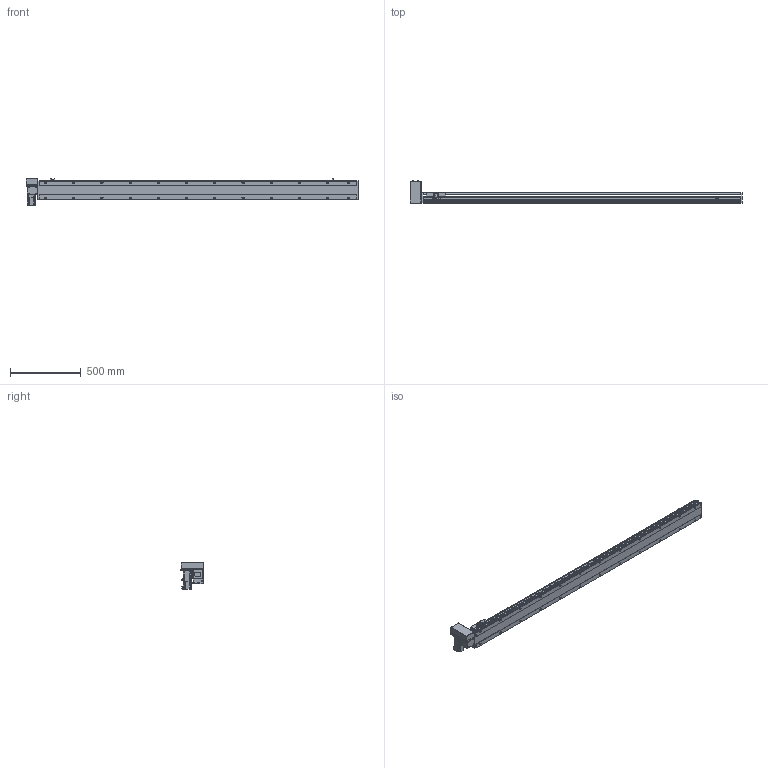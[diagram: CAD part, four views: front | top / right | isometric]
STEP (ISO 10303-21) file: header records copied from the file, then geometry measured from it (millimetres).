
FILE_DESCRIPTION( ( 'STEP AP214' ), '1' );
FILE_NAME( 'x:/temp/worker_3/temp/exporttempdir_5796_25_tZlxv/format_0/PBS140-P40-S2000-RU-T40-C1-N(0).stp', '2022-06-07T05:56:14', ( 'License CC BY-ND 4.0' ), ( 'CADENAS' ), ' ', 'PARTsolutions', ' ' );
FILE_SCHEMA( ( 'AUTOMOTIVE_DESIGN { 1 0 10303 214 1 1 1 1 }' ) );
Length unit declared in the file: millimetre
Products named in the file (7): PBS140-P40-S2000-RU-T40-C1-N(0); _PBS140-S2000()_body; _PBS140T-RU_motors; _T40-p1; _PBS140_sliser; _PBS140_plant; _PBS140_sensor
Assembly tree (8 placements, depth 2):
  PBS140-P40-S2000-RU-T40-C1-N(0)
    _PBS140-S2000()_body
    _PBS140T-RU_motors
    _T40-p1
    _PBS140_sliser
    _PBS140_plant
    _PBS140_sensor  x3
Bounding box: 2354 x 162.5 x 189.7 mm (x, y, z)
Volume: 10705055.5 mm3; surface area: 1833086.8 mm2
Topology: 8 solids, 8 shells, 1139 faces, 2996 edges, 1957 vertices
Faces by surface type: plane 716, cylinder 363, cone 50, sphere 8, torus 2
Full cylindrical faces by diameter (mm): 3.242 x4, 4 x2, 4.134 x4, 4.4 x8, 4.5 x2, 4.8 x4, 4.917 x32, 5.5 x7, 6 x2, 7 x26, 7.5 x8, 8 x12, 8.5 x4, 10.5 x24, 14 x1, 30 x2, 50 x2
Entity records: 41857 total; most frequent: CARTESIAN_POINT 6923, DIRECTION 5477, ORIENTED_EDGE 5152, EDGE_CURVE 2576, AXIS2_PLACEMENT_3D 1927, VERTEX_POINT 1797, LINE 1623, VECTOR 1623
